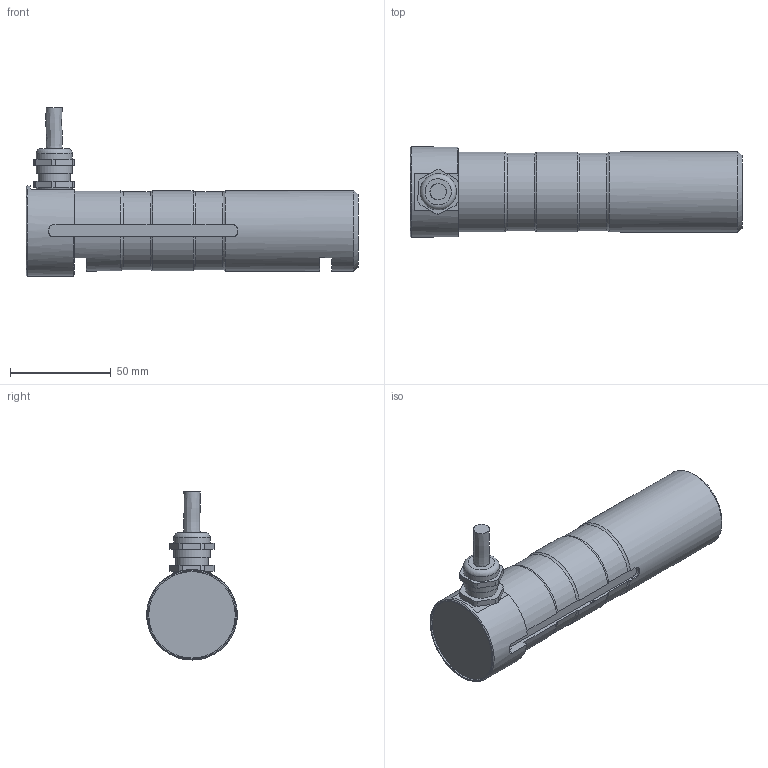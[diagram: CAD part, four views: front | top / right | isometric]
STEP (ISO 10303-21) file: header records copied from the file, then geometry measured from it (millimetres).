
FILE_DESCRIPTION(/* description */ ('Alibre Inc.'),/* implementation_level */ '2;1');
FILE_NAME(/* name */ 'export0',/* time_stamp */ '2015-11-02T20:59:53+01:00',/* author */ (''),/* organization */ (''),/* preprocessor_version */ 'ST-DEVELOPER v14',/* originating_system */ 'Alibre',/* authorisation */ '');
FILE_SCHEMA (('CONFIG_CONTROL_DESIGN'));
Length unit declared in the file: centimetre
Products named in the file (6): ID_1; ID_2; ID_3
Bounding box: 165 x 45 x 83.57 mm (x, y, z)
Volume: 211093.5 mm3; surface area: 29922.8 mm2
Topology: 4 solids, 4 shells, 131 faces, 346 edges, 229 vertices
Faces by surface type: plane 61, cylinder 54, torus 10, cone 5, bspline 1
Full cylindrical faces by diameter (mm): 8 x1, 10 x1, 14.376 x1, 16 x2, 18 x2, 40 x1, 43 x1, 45 x1
Entity records: 4627 total; most frequent: CARTESIAN_POINT 1229, ORIENTED_EDGE 650, DIRECTION 468, EDGE_CURVE 325, VERTEX_POINT 225, AXIS2_PLACEMENT_3D 181, VECTOR 156, LINE 156
